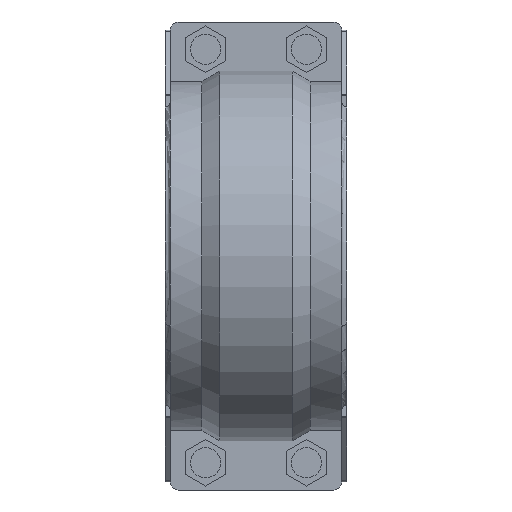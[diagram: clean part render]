
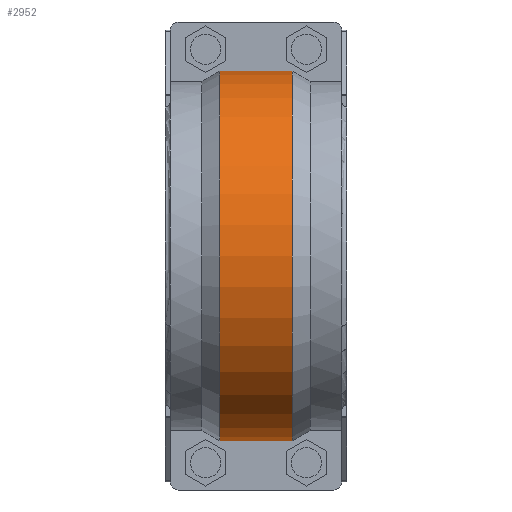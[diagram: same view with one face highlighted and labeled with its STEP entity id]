
A CAD part, front view. The second image highlights one B-rep face of the part: STEP entity #2952.
In plain terms, the highlighted cylindrical face has radius 116.454 mm (diameter 232.908 mm), a partial arc.
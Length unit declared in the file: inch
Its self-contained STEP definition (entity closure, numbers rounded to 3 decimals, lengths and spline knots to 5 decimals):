
#341=FACE_OUTER_BOUND('',#515,.T.);
#515=EDGE_LOOP('',(#2506,#2507,#2508,#2509));
#632=LINE('',#4413,#899);
#792=LINE('',#4917,#1059);
#899=VECTOR('',#3534,0.3937);
#1059=VECTOR('',#3972,0.3937);
#1121=CIRCLE('',#3119,4.58481);
#1155=CIRCLE('',#3218,4.58481);
#1269=VERTEX_POINT('',#4408);
#1270=VERTEX_POINT('',#4412);
#1315=VERTEX_POINT('',#4597);
#1414=VERTEX_POINT('',#4913);
#1571=EDGE_CURVE('',#1270,#1269,#632,.T.);
#1642=EDGE_CURVE('',#1315,#1269,#1121,.T.);
#1796=EDGE_CURVE('',#1315,#1414,#792,.T.);
#1803=EDGE_CURVE('',#1414,#1270,#1155,.T.);
#2506=ORIENTED_EDGE('',*,*,#1571,.T.);
#2507=ORIENTED_EDGE('',*,*,#1642,.F.);
#2508=ORIENTED_EDGE('',*,*,#1796,.T.);
#2509=ORIENTED_EDGE('',*,*,#1803,.T.);
#2648=CYLINDRICAL_SURFACE('',#3217,4.58481);
#2952=ADVANCED_FACE('',(#341),#2648,.T.);
#3119=AXIS2_PLACEMENT_3D('',#4601,#3669,#3670);
#3217=AXIS2_PLACEMENT_3D('',#4931,#3991,#3992);
#3218=AXIS2_PLACEMENT_3D('',#4932,#3993,#3994);
#3534=DIRECTION('',(1.,0.,0.));
#3669=DIRECTION('center_axis',(1.,0.,0.));
#3670=DIRECTION('ref_axis',(0.,0.,-1.));
#3972=DIRECTION('',(-1.,0.,0.));
#3991=DIRECTION('center_axis',(1.,0.,0.));
#3992=DIRECTION('ref_axis',(0.,-1.,0.));
#3993=DIRECTION('center_axis',(1.,0.,0.));
#3994=DIRECTION('ref_axis',(0.,0.,-1.));
#4408=CARTESIAN_POINT('',(0.9,-0.1875,-4.58097));
#4412=CARTESIAN_POINT('',(-0.9,-0.1875,-4.58097));
#4413=CARTESIAN_POINT('',(0.45,-0.1875,-4.58097));
#4597=CARTESIAN_POINT('',(0.9,-0.1875,4.58097));
#4601=CARTESIAN_POINT('Origin',(0.9,0.,0.));
#4913=CARTESIAN_POINT('',(-0.9,-0.1875,4.58097));
#4917=CARTESIAN_POINT('',(0.45,-0.1875,4.58097));
#4931=CARTESIAN_POINT('Origin',(0.45,0.,0.));
#4932=CARTESIAN_POINT('Origin',(-0.9,0.,0.));
